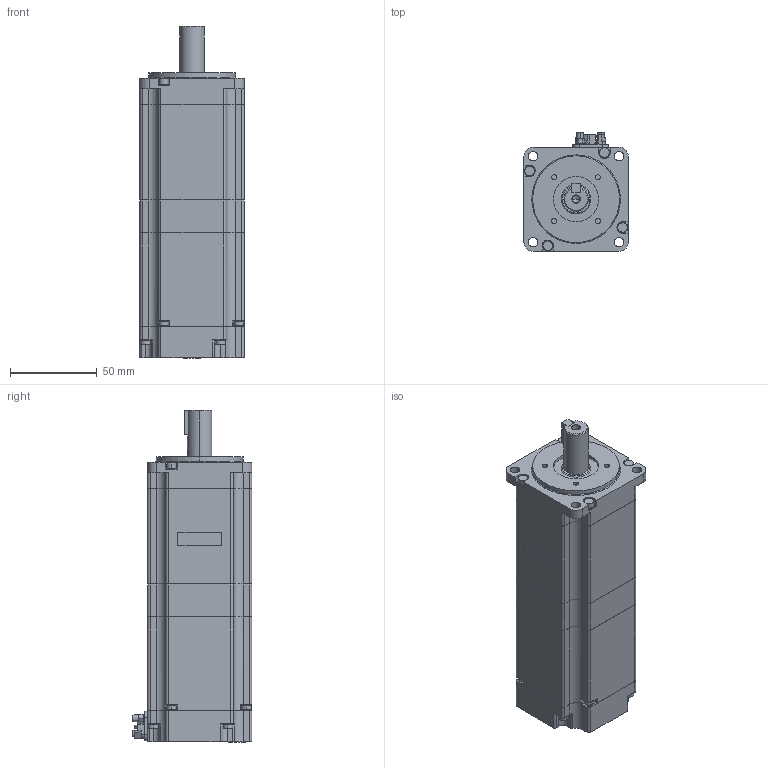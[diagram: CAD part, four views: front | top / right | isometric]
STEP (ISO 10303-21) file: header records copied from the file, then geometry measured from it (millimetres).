
FILE_DESCRIPTION( (''), '2;1');
FILE_NAME ('sgmxj_06aua6ca_.stp','2024-03-08T10:03:44',(''),(''),'spGate 15.6.6','','');
FILE_SCHEMA (('AUTOMOTIVE_DESIGN'));
Length unit declared in the file: millimetre
Products named in the file (3): Assembly; sgmxj_06aua6ca_-prt0; sgmxj_06aua6ca_-prt1
Assembly tree (2 placements, depth 2):
  Assembly
    sgmxj_06aua6ca_-prt0
    sgmxj_06aua6ca_-prt1
Bounding box: 60.1 x 68.8 x 191.1 mm (x, y, z)
Volume: 521604.5 mm3; surface area: 50098.9 mm2
Topology: 2 solids, 2 shells, 534 faces, 1410 edges, 935 vertices
Faces by surface type: plane 306, cylinder 221, bspline 7
Entity records: 27902 total; most frequent: CARTESIAN_POINT 3113, DIRECTION 2838, ORIENTED_EDGE 2816, COLOUR_RGB 1944, PRESENTATION_STYLE_ASSIGNMENT 1944, STYLED_ITEM 1944, EDGE_CURVE 1408, DRAUGHTING_PRE_DEFINED_CURVE_FONT 1408
